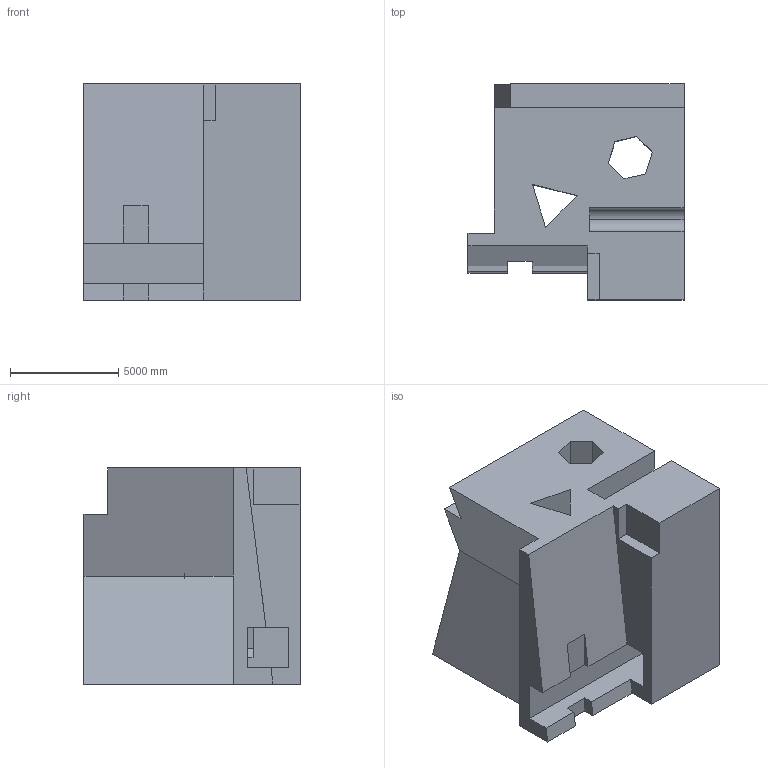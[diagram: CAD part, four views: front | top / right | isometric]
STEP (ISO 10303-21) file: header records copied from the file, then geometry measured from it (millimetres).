
FILE_DESCRIPTION (( 'STEP AP203' ), '1' );
FILE_NAME ('193.STEP', '2022-08-31T12:21:39', ( 'user' ), ( '' ), 'SwSTEP 2.0', 'SolidWorks 2021', '' );
FILE_SCHEMA (( 'CONFIG_CONTROL_DESIGN' ));
Length unit declared in the file: centimetre
Products named in the file (1): 193
Bounding box: 10000 x 10000 x 10000 mm (x, y, z)
Volume: 632721153855.8 mm3; surface area: 755912126 mm2
Topology: 1 solids, 1 shells, 56 faces, 177 edges, 118 vertices
Faces by surface type: plane 54, cylinder 2
Entity records: 2022 total; most frequent: ORIENTED_EDGE 354, CARTESIAN_POINT 352, DIRECTION 295, EDGE_CURVE 177, VECTOR 173, LINE 173, VERTEX_POINT 118, EDGE_LOOP 61
